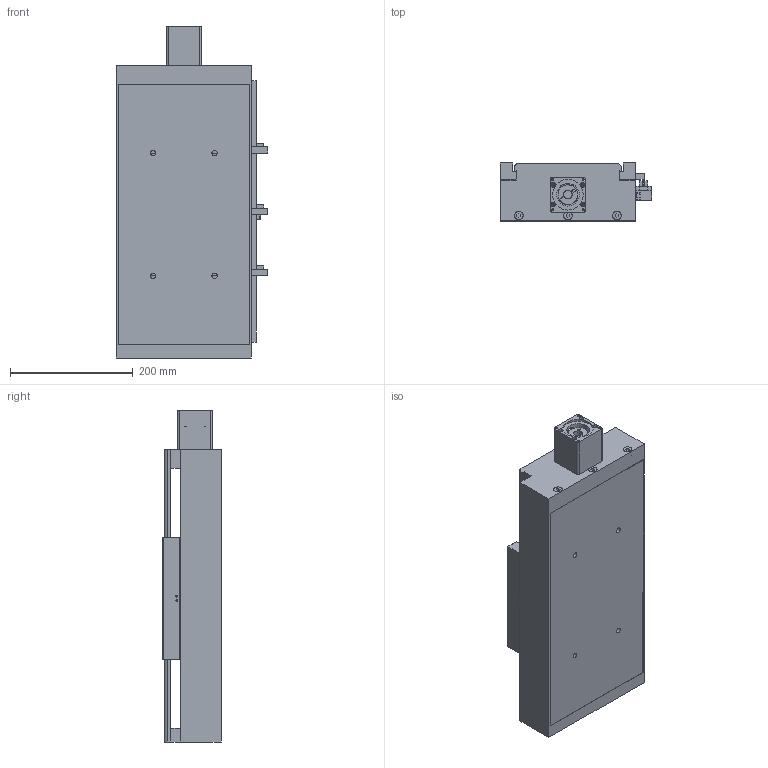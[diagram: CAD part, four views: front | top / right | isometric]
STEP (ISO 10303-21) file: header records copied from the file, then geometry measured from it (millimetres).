
FILE_DESCRIPTION((''),'2;1');
FILE_NAME('E:\libraries\UIA actuator library 2016\standard actuator\UIA220R20NDC\UIA220R20NDC ball screw 25\UIA220R20NDC-_ _ _-R25_ _ stp file, 01May16\UIA220R20NDC-200-R25_ _-M60-P13-C10-S.stp','2016-04-29T17:19:09',('h029'),(''),'Autodesk Inventor 11','Autodesk Inventor 11','');
FILE_SCHEMA(('AUTOMOTIVE_DESIGN { 1 0 10303 214 1 1 1 1 }'));
Length unit declared in the file: millimetre
Products named in the file (10): UIA220R20NDC-200-R25_ _; UIA220R20NDC-body; 41-100 0010 CARRIAGE; sensor rail; Sensor Switch; motor mount M60; SOH-32C; SOH-32C-3; SOH-32C-1; SOH-32C-2
Assembly tree (9 placements, depth 3):
  UIA220R20NDC-200-R25_ _
    UIA220R20NDC-body
    41-100 0010 CARRIAGE
    sensor rail
    Sensor Switch
    motor mount M60
    SOH-32C
      SOH-32C-3
      SOH-32C-1
      SOH-32C-2
Bounding box: 246.5 x 96 x 541 mm (x, y, z)
Volume: 3942407.7 mm3; surface area: 820606.5 mm2
Topology: 8 solids, 8 shells, 499 faces, 1341 edges, 881 vertices
Faces by surface type: plane 342, bspline 109, cylinder 46, cone 2
Full cylindrical faces by diameter (mm): 3.242 x2, 4.5 x2, 7 x4, 7.5 x2, 13.8 x3, 14 x6, 17 x1, 32 x3, 37 x1, 50.3 x1, 50.5 x1
Entity records: 16306 total; most frequent: CARTESIAN_POINT 4537, ORIENTED_EDGE 2296, DIRECTION 2245, EDGE_CURVE 1148, VECTOR 849, LINE 849, VERTEX_POINT 807, EDGE_LOOP 709
